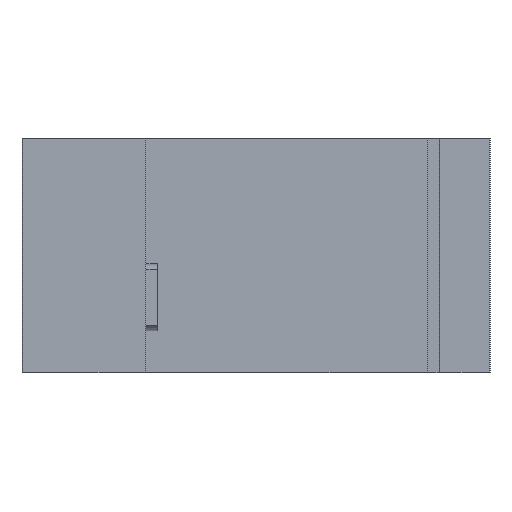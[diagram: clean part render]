
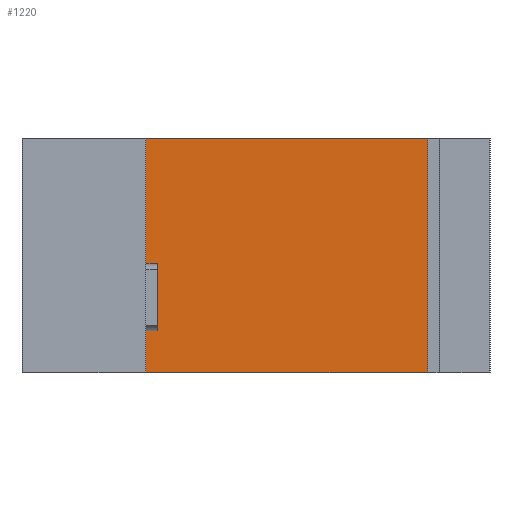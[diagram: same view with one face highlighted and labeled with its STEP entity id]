
A CAD part, front view. The second image highlights one B-rep face of the part: STEP entity #1220.
In plain terms, the highlighted planar face has unit normal (0, -1, 0).
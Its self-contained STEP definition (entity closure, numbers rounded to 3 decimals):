
#816 = EDGE_CURVE( '', #1076, #1622, #2014, .T. );
#924 = VERTEX_POINT( '', #2133 );
#1076 = VERTEX_POINT( '', #2307 );
#1208 = EDGE_CURVE( '', #1216, #924, #2459, .T. );
#1216 = VERTEX_POINT( '', #2468 );
#1220 = ADVANCED_FACE( '', ( #2472 ), #2473, .T. );
#1290 = EDGE_CURVE( '', #924, #1622, #2549, .T. );
#1622 = VERTEX_POINT( '', #2916 );
#1736 = EDGE_CURVE( '', #1216, #1076, #3047, .T. );
#2014 = LINE( '', #3408, #3409 );
#2133 = CARTESIAN_POINT( '', ( -21.3, 11.65, -34. ) );
#2307 = CARTESIAN_POINT( '', ( 21.3, 11.65, 0. ) );
#2459 = LINE( '', #4023, #4024 );
#2468 = CARTESIAN_POINT( '', ( -21.3, 11.65, 0. ) );
#2472 = FACE_OUTER_BOUND( '', #4040, .T. );
#2473 = PLANE( '', #4041 );
#2549 = LINE( '', #4144, #4145 );
#2916 = CARTESIAN_POINT( '', ( 21.3, 11.65, -34. ) );
#3047 = LINE( '', #4820, #4821 );
#3408 = CARTESIAN_POINT( '', ( 21.3, 11.65, 0. ) );
#3409 = VECTOR( '', #5111, 1. );
#4023 = CARTESIAN_POINT( '', ( -21.3, 11.65, 0. ) );
#4024 = VECTOR( '', #5666, 1. );
#4040 = EDGE_LOOP( '', ( #5680, #5681, #5682, #5683 ) );
#4041 = AXIS2_PLACEMENT_3D( '', #5684, #5685, #5686 );
#4144 = CARTESIAN_POINT( '', ( -21.3, 11.65, -34. ) );
#4145 = VECTOR( '', #5751, 1. );
#4820 = CARTESIAN_POINT( '', ( -21.3, 11.65, 0. ) );
#4821 = VECTOR( '', #6292, 1. );
#5111 = DIRECTION( '', ( 0., 0., -1. ) );
#5666 = DIRECTION( '', ( 0., 0., -1. ) );
#5680 = ORIENTED_EDGE( '', *, *, #1290, .T. );
#5681 = ORIENTED_EDGE( '', *, *, #816, .F. );
#5682 = ORIENTED_EDGE( '', *, *, #1736, .F. );
#5683 = ORIENTED_EDGE( '', *, *, #1208, .T. );
#5684 = CARTESIAN_POINT( '', ( -21.3, 11.65, 0. ) );
#5685 = DIRECTION( '', ( 0., -1., 0. ) );
#5686 = DIRECTION( '', ( -1., 0., 0. ) );
#5751 = DIRECTION( '', ( 1., 0., 0. ) );
#6292 = DIRECTION( '', ( 1., 0., 0. ) );
